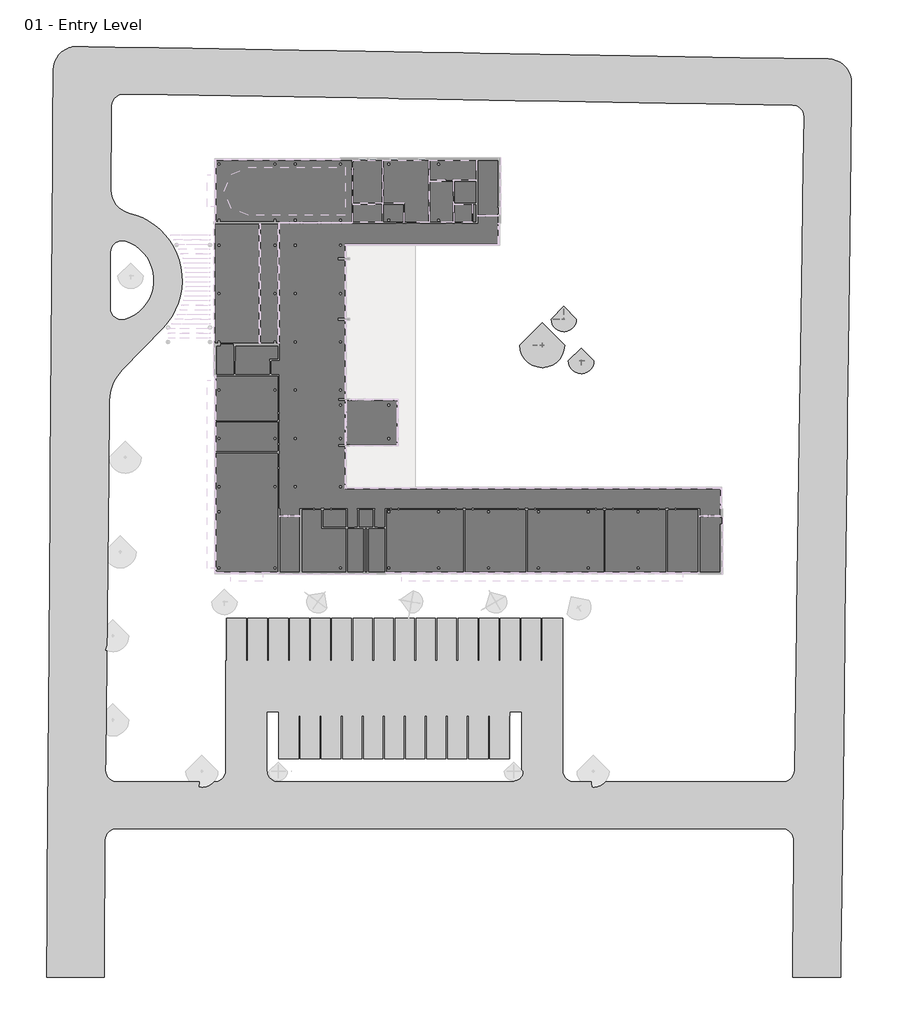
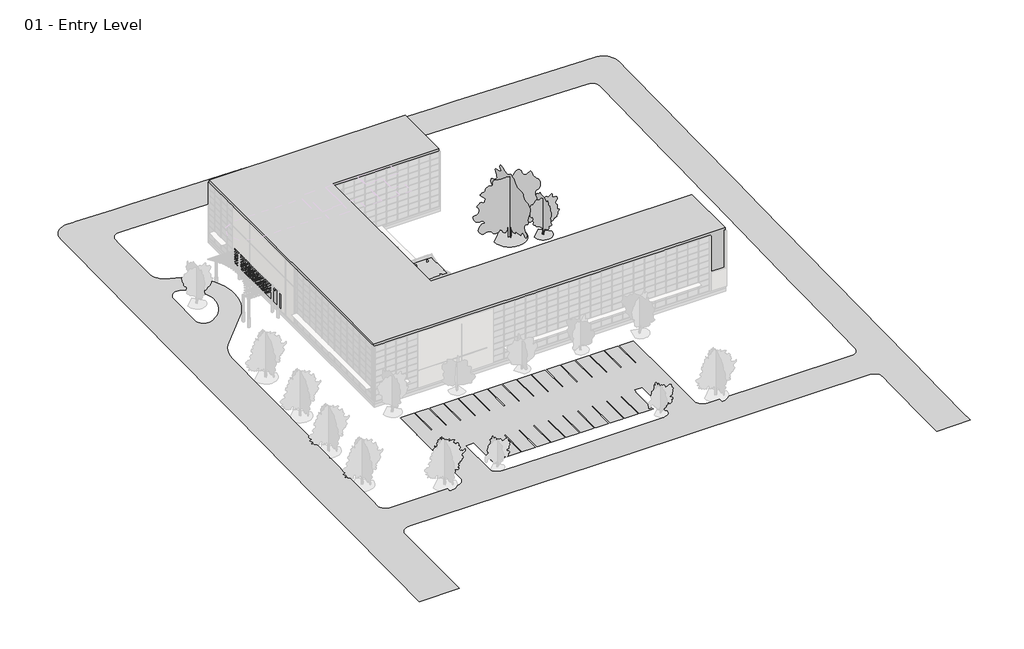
# One storey, part 35 of 35: 3 geographic elements, 3 proxies.
"""IFC4 building model written with IfcOpenShell, lengths in millimetres."""

from ifc_helpers import new_model, si_unit, origin, origin_with_axes, place, context, project, spatial, polyline, outline, extrude, triangles, transform, mapped, element, save
from components import rpc_tree_deciduous_honey_locust_25_cc46a1f1, rpc_tree_deciduous_red_ash_25_14781bec, rpc_tree_deciduous_scarlet_oak_42_9b182cbb

model = new_model("IFC4")

# Units and contexts
model_context = context("Model", 3, world=origin())
ifc_project = project(units=[si_unit("LENGTHUNIT", "METRE", prefix="MILLI")], contexts=[model_context])

# Site, building, storey
site = spatial("IfcSite", under=ifc_project)
building = spatial("IfcBuilding", under=site)
storey = spatial("IfcBuildingStorey", under=building, Name="01 - Entry Level", Elevation=0.0)

# Proxies
placement = place(None, origin())
element("IfcBuildingElementProxy", 1, Name="Building Element Proxy", at=placement, inside=storey, context=model_context, shape_type="Tessellation", body=[
    triangles([(-20951.5374207, 65536.799707, 0.0), (-20952.3466736, 65428.1737793, 0.0), (-20960.1206177, 64383.2887207, 0.0), (-20996.1184204, 59545.0584595, 0.0), (-21005.5713318, 58274.2244019, 0.0), (-21027.088623, 55382.3730103, 0.0), (-21041.8109802, 53403.372876, 0.0), (-21336.539502, 13790.1222198, -63.9085037), (-21377.7997742, 8244.3444489, -68.5632705), (-21573.3855103, -18043.7230499, -82.5216981), (-21616.1294128, -23788.6921509, -81.5271458), (-21677.211731, -31998.81427, -82.899046), (-21737.5499084, -40108.6587891, -84.2541959), (-21771.6850342, -44696.5182861, -83.7693963), (-21831.9674011, -52798.8609375, -85.1033628), (-14322.3478729, -52798.8609375, -96.0960239), (-14281.4852509, -45101.0377808, -94.804642), (-14253.9253052, -39909.098877, -95.3369042), (-14227.4373871, -34919.2197327, -94.4872922), (-14187.690976, -34581.4310486, -94.4861658), (-14074.0176819, -34260.86922, -94.5979413), (-13892.0822754, -33973.5007141, -94.8170413), (-13650.9435059, -33733.6386108, -95.1325653), (-13362.6145935, -33553.2310181, -95.5287893), (-13041.4539642, -33441.2611084, -95.9859834), (-12703.458316, -33403.3099365, -96.4813747), (28841.9744019, -33403.3099365, -158.2045331), (74050.6428223, -33403.3099365, -225.3700736), (74391.5894531, -33441.9378113, -225.883487), (74715.253418, -33555.8634155, -226.3846374), (75005.2310669, -33739.3126831, -226.8481447), (75246.8116699, -33982.9838562, -227.2504639), (75427.7587646, -34274.5265259, -227.5712292), (75538.8915161, -34599.160199, -227.7941807), (75549.6303955, -34701.839978, -227.8284265), (75574.5823608, -34940.4277405, -227.9080001), (75552.4255737, -37514.2985413, -228.3336282), (75445.3948975, -49946.8768799, -226.9983899), (75420.8429077, -52798.8609375, -227.4630599), (81696.576123, -52798.8609375, -236.649545), (81726.7510254, -50286.1119873, -236.2526579), (81882.1275879, -37345.508844, -237.7074383), (81911.7443848, -34878.7152283, -237.3119864), (81941.7146484, -32382.6675842, -236.9118291), (82142.1861328, -15686.4832123, -239.9176413), (82234.2456299, -8018.5681137, -235.899718), (82253.6490967, -6402.5353592, -234.5542514), (82535.0365723, 17032.6975525, -196.8883819), (82579.7687256, 20757.7608765, -197.739529), (82630.5470215, 24987.3794495, -197.9025096), (82680.264917, 29127.9383423, -188.1372808), (82736.3173096, 33796.23479, -187.5318672), (82793.7463623, 38578.9986694, -187.7452808), (82855.6495605, 43735.1304565, -175.5348706), (82922.4361816, 49297.5351196, -171.8794796), (83062.6973877, 60978.7569946, -168.736957), (83097.2441162, 63856.4046021, -167.7387803), (83057.5442139, 64384.6839844, -167.4271896), (82926.9754395, 64898.1084595, -166.8679396), (82709.4724365, 65381.1719971, -166.077926), (82411.6208496, 65819.2754883, -165.0810029), (82042.396875, 66199.1871826, -163.90731), (81612.9812256, 66509.4333618, -162.592274), (81136.3219482, 66740.637854, -161.1756453), (80626.8367676, 66885.8150391, -159.7002266), (80099.9014893, 66940.5791382, -158.2105647), (68550.9785156, 67131.7163086, -125.9449015), (54223.2577148, 67368.8413696, -85.4636152), (50301.6133667, 67433.7443848, -75.3097337), (34613.6197815, 67693.3796997, -53.6210048), (32524.7007751, 67727.9496826, -47.7922091), (30878.3966125, 67755.1991821, -43.3861009), (16017.8153137, 68001.1423096, -27.5484457), (15150.1694366, 68015.4995728, -25.3253051), (14493.3560394, 68026.3686768, -23.5577077), (-2856.9395691, 68313.5185913, 0.0), (-6105.6604568, 68367.2827515, 0.0), (-7229.526741, 68385.8862671, 0.0), (-9490.7486023, 68423.3072388, 0.0), (-16418.6885193, 68537.9653564, 0.0), (-16858.905835, 68545.2486328, 0.0), (-17853.1846802, 68561.7080933, 0.0), (-18386.2044708, 68523.6778564, 0.0), (-18904.3914459, 68393.1462891, 0.0), (-19391.8163452, 68174.1177979, 0.0), (-19833.5010132, 67873.3361572, 0.0), (-20215.8637207, 67500.0333618, 0.0), (-20527.1586731, 67065.6924316, 0.0), (-20757.8120361, 66583.6613892, 0.0), (-20900.7358704, 66068.7532837, 0.0), (75444.1484619, 60920.7977417, -147.2674009), (75782.2208496, 60877.0748291, -148.2341296), (76102.1129517, 60759.2959717, -149.1720175), (76387.8257446, 60573.3631348, -150.034156), (76625.0624268, 60328.5734253, -150.7773974), (76801.9539551, 60037.1772583, -151.3645527), (76909.6543579, 59713.7504883, -151.7662632), (76942.7639648, 59374.4735229, -151.9624086), (76850.2951904, 53121.041272, -153.5956937), (76776.9415283, 48160.2975586, -156.8201517), (76689.807312, 42267.4991089, -170.7530767), (76625.6019287, 37925.6966858, -170.525656), (76562.9638916, 33689.4459595, -171.0435568), (76492.8890991, 28950.6421875, -182.206193), (76435.4181885, 25063.9980286, -182.0287329), (76384.816626, 21641.9650452, -181.2211877), (75988.185022, -5181.2186279, -224.2330609), (75960.7913452, -7033.8881012, -225.7679054), (75830.7248657, -15829.9302704, -230.3395559), (75683.2129395, -25805.8411194, -228.5016048), (75640.7550659, -26141.2322754, -228.3830438), (75525.3946655, -26459.0128784, -228.1569674), (75342.8197632, -26743.5396973, -227.8345126), (75102.0112061, -26980.8182373, -227.4315393), (74814.8101318, -27159.1678162, -226.9678867), (74495.3645142, -27269.8122253, -226.466373), (74159.3803711, -27307.3099365, -225.9516696), (46965.1193481, -27307.3099365, -184.7824166), (46625.9958618, -27269.0983154, -184.2751983), (46303.8759888, -27156.3865906, -183.8058047), (46014.9168823, -26974.820929, -183.3977264), (45773.6060303, -26733.5077515, -183.0714745), (45592.0403687, -26444.548645, -182.8433634), (45479.3263184, -26122.4310974, -182.7248569), (45441.1193481, -25783.3099365, -182.7219137), (45441.1193481, -16520.622995, -184.2210955), (45441.1193481, -5971.3087738, -178.4995515), (1550.3207771, -5971.3087738, -111.3510339), (1550.3207771, -17518.1690826, -117.6136059), (1550.3207771, -25711.2096863, -116.2875422), (1550.3207771, -25783.3099365, -116.3003866), (1512.1109001, -26122.4310974, -116.3040292), (1399.3972858, -26444.548645, -116.1939614), (1217.8319149, -26733.5077515, -115.9756971), (976.5191734, -26974.820929, -115.6601732), (687.5595583, -27156.3865906, -115.2632134), (365.4426647, -27269.0983154, -114.8047385), (26.3207476, -27307.3099365, -114.3077121), (-12624.7305634, -27307.3099365, -95.5123205), (-12966.0481018, -27268.5960205, -94.9983348), (-13290.0248383, -27154.4262451, -94.4966757), (-13580.2013123, -26970.5956055, -94.0328141), (-13821.8377258, -26726.4477173, -93.6303223), (-14002.6557587, -26434.3841492, -93.309657), (-14113.4687622, -26109.2435303, -93.087096), (-14148.649173, -25767.5457825, -92.973958), (-14134.602356, -24409.5612305, -92.7528959), (-14066.9878784, -17873.1183472, -93.9131993), (-13809.1117584, 7056.365799, -80.7869202), (-13754.7441467, 12312.215918, -76.3981075), (-13651.822522, 22261.9504578, -60.3845455), (-13595.1364471, 23030.6640015, -59.2122061), (-13441.8992889, 23786.0806824, -58.1899483), (-13194.5608978, 24516.1198425, -57.334123), (-12857.0756836, 25209.1101013, -56.6584103), (-12434.8386658, 25853.9753906, -56.1736152), (-11934.6005951, 26440.4023865, -55.8874908), (-6619.5267654, 31927.0837646, -54.0552988), (-6008.4547623, 32644.9562256, -53.7033172), (-5475.9047104, 33422.8645569, -53.1493812), (-5027.7297409, 34252.2534668, -52.3995814), (-4668.856588, 35124.0118835, -51.4621613), (-4403.2312317, 36028.5520203, -50.3474219), (-4233.7729706, 36955.9302979, -49.0676172), (-4162.3444817, 37895.9566406, -47.6368225), (-4189.7311821, 38838.2944702, -46.0707571), (-4315.6319275, 39772.5816284, -44.3866439), (-4538.6630814, 40688.5582764, -42.6029909), (-4856.3724678, 41576.1459595, -40.7394056), (-5265.2675674, 42425.5871338, -38.8163761), (-5760.8541779, 43227.5474854, -36.8550428), (-6337.6835037, 43973.2135986, -34.8769614), (-6989.4152344, 44654.3859741, -32.9038805), (-7708.8846909, 45263.5766968, -30.9574899), (-8488.1836349, 45794.088501, -29.0591819), (-9318.7445663, 46240.0938354, -27.2298264), (-10191.4383911, 46596.6813721, -25.4895347), (-11096.6703461, 46859.9397217, -23.8574328), (-11584.3254639, 47018.7300293, -22.9506613), (-12038.4535583, 47257.0317627, -21.9594381), (-12446.1984375, 47568.1057983, -20.9118322), (-12796.0166199, 47943.1387207, -19.8375019), (-13078.0028961, 48371.5125732, -18.7668584), (-13284.1751953, 48841.1025146, -17.7302189), (-13408.6955017, 49338.6116821, -16.7569282), (-13448.0384491, 49849.9572144, -15.8745443), (-13374.830127, 59689.6868408, 0.0), (-13366.1783295, 60852.5181885, 0.0), (-13324.9901459, 61193.2787842, 0.0), (-13208.5879486, 61516.175354, 0.0), (-13022.8771912, 61804.8321533, 0.0), (-12777.277066, 62044.6128662, 0.0), (-12484.2472778, 62223.3461426, 0.0), (-12158.6497101, 62331.9674194, 0.0), (-11817.0019592, 62364.974707, 0.0), (-10145.7039734, 62337.3112793, 0.0), (22812.1657104, 61791.8608521, -44.749199), (24059.8197876, 61771.2109497, -48.1068519), (25707.9610474, 61743.9335449, -52.3298318), (39240.2699341, 61519.9751221, -66.7518848), (41773.1990479, 61478.0520996, -73.5309178), (44987.114502, 61424.8646484, -82.4988343), (58871.4716675, 61195.0786743, -101.6940289), (64167.046106, 61107.4328613, -115.405265), (-13555.6202545, 34475.8979553, -40.6867425), (-13501.5572754, 41742.2660522, -28.9638321), (-13457.1878906, 42096.16073, -28.4484361), (-13331.7792664, 42430.0473267, -28.0733682), (-13132.2007507, 42725.6478882, -27.8591689), (-12869.3842346, 42966.7634033, -27.8175699), (-12557.7218628, 43140.1946777, -27.9508511), (-12214.2870117, 43236.4353149, -28.2517094), (-11857.8878357, 43250.2158691, -28.7036713), (-11508.0463989, 43180.7875488, -29.281979), (-10848.8610535, 42917.6640747, -30.5863939), (-10230.4453125, 42569.3551025, -31.9748288), (-9663.7490891, 42142.0230469, -33.4226987), (-9158.806073, 41643.2348877, -34.9043716), (-8724.5569977, 41081.8179932, -36.3936112), (-8368.6897659, 40467.7205933, -37.8640474), (-8097.5057373, 39811.811792, -39.2896485), (-7915.8069443, 39125.704834, -40.6451708), (-7826.810051, 38421.5478149, -41.9066172), (-7832.0905426, 37711.8097412, -43.0516463), (-7931.5548203, 37009.0549622, -44.0599878), (-8123.4431076, 36325.7269043, -44.9137919), (-8404.3561935, 35673.9248291, -45.5979344), (-8769.3211258, 35065.1898926, -46.1003065), (-9211.8760895, 34510.2981812, -46.4120154), (-9724.184935, 34019.0793274, -46.5275379), (-10297.176123, 33600.225824, -46.4448259), (-10920.7066681, 33261.1558228, -46.1653507), (-11583.7336395, 33007.871283, -45.6940586), (-11934.5703644, 32943.6542725, -45.3313627), (-12290.7242065, 32962.7391541, -44.826379), (-12632.6893799, 33064.07948, -44.2067584), (-12941.7356323, 33242.1267517, -43.5064378), (-13200.9360901, 33487.1257507, -42.7637824), (-13396.095108, 33785.6610168, -42.0194555), (-13516.5214783, 34121.3800598, -41.3142342), (6884.3204865, -18163.3087738, -125.584304), (8408.3204865, -18163.3087738, -127.891476), (8408.3204865, -24259.3099365, -126.9048265), (38583.1170227, -24259.3099365, -172.586286), (38583.1170227, -18163.3087738, -173.5729445), (40107.1193481, -18163.3087738, -175.8801075), (40107.1193481, -25783.3099365, -174.6467889), (40068.9077271, -26122.4310974, -174.5340596), (39956.1936768, -26444.548645, -174.3112897), (39774.6280151, -26733.5077515, -173.9896524), (39533.3171631, -26974.820929, -173.5852621), (39244.3580566, -27156.3865906, -173.1184301), (38922.2381836, -27269.0983154, -172.6125381), (38583.1170227, -27307.3099365, -172.0929477), (20783.3895447, -27307.3099365, -145.146046), (8408.3204865, -27307.3099365, -126.7606675), (8069.1987442, -27269.0983154, -126.2500337), (7747.081778, -27156.3865906, -125.7513995), (7458.1220901, -26974.820929, -125.2897453), (7216.809494, -26733.5077515, -124.8882436), (7035.2444138, -26444.548645, -124.567015), (6935.0011139, -26158.0707825, -124.3670545), (6922.5303635, -26122.4310974, -124.3539376), (6884.3204865, -25783.3099365, -124.3509853)], [[14, 15, 17], [16, 17, 15], [14, 17, 18], [12, 13, 19], [18, 19, 13], [13, 14, 18], [12, 19, 20], [22, 12, 21], [142, 12, 23], [23, 12, 22], [12, 142, 143], [24, 141, 142], [141, 24, 25], [23, 24, 142], [21, 12, 20], [12, 143, 144], [11, 146, 147], [146, 11, 145], [11, 144, 145], [11, 147, 148], [149, 9, 10], [148, 149, 10], [9, 150, 8], [10, 11, 148], [151, 8, 150], [151, 152, 8], [152, 153, 8], [8, 240, 205], [240, 153, 239], [240, 8, 153], [154, 239, 153], [150, 9, 149], [11, 12, 144], [8, 205, 7], [140, 25, 26], [26, 139, 140], [237, 238, 156], [238, 239, 155], [237, 157, 236], [238, 155, 156], [140, 141, 25], [157, 235, 236], [157, 158, 232], [231, 232, 158], [234, 235, 157], [232, 233, 157], [234, 157, 233], [158, 159, 229], [157, 237, 156], [230, 158, 229], [158, 230, 231], [227, 228, 160], [225, 226, 163], [227, 161, 226], [159, 228, 229], [161, 162, 226], [162, 163, 226], [163, 164, 225], [166, 222, 223], [224, 165, 223], [164, 165, 224], [222, 166, 167], [225, 164, 224], [222, 167, 168], [161, 227, 160], [159, 160, 228], [26, 138, 139], [155, 239, 154], [7, 206, 207], [185, 7, 184], [7, 207, 208], [7, 185, 186], [7, 186, 6], [187, 5, 6], [187, 4, 5], [187, 6, 186], [206, 7, 205], [183, 208, 209], [210, 182, 209], [182, 210, 181], [183, 209, 182], [187, 188, 4], [183, 184, 208], [184, 7, 208], [4, 188, 189], [1, 82, 90], [90, 82, 89], [82, 1, 2], [83, 87, 88], [84, 86, 87], [82, 88, 89], [2, 3, 81], [3, 190, 191], [190, 3, 189], [82, 83, 88], [191, 80, 3], [85, 86, 84], [87, 83, 84], [2, 81, 82], [80, 81, 3], [191, 192, 80], [3, 4, 189], [175, 215, 216], [173, 217, 218], [174, 216, 217], [211, 212, 180], [178, 213, 214], [179, 212, 213], [214, 215, 177], [170, 219, 220], [220, 221, 169], [168, 221, 222], [168, 169, 221], [218, 171, 172], [171, 219, 170], [220, 169, 170], [171, 218, 219], [218, 172, 173], [180, 181, 211], [179, 213, 178], [180, 212, 179], [194, 80, 193], [194, 195, 79], [194, 79, 80], [215, 176, 177], [176, 215, 175], [214, 177, 178], [78, 79, 196], [77, 78, 196], [196, 79, 195], [196, 76, 77], [216, 174, 175], [173, 174, 217], [193, 80, 192], [181, 210, 211], [26, 257, 137], [136, 257, 258], [257, 136, 137], [26, 137, 138], [134, 135, 259], [258, 259, 135], [135, 136, 258], [260, 134, 259], [255, 256, 27], [27, 254, 255], [254, 27, 253], [257, 26, 256], [120, 252, 253], [250, 251, 122], [252, 121, 251], [253, 27, 119], [256, 26, 27], [132, 133, 262], [262, 263, 132], [133, 261, 262], [132, 263, 131], [130, 131, 264], [264, 241, 130], [131, 263, 264], [260, 261, 133], [243, 244, 245], [248, 249, 124], [246, 247, 125], [245, 246, 127], [248, 125, 247], [133, 134, 260], [243, 245, 242], [250, 123, 249], [129, 130, 241], [39, 41, 38], [44, 32, 33], [28, 29, 117], [115, 30, 31], [116, 29, 30], [31, 32, 44], [118, 27, 28], [41, 42, 38], [41, 39, 40], [42, 37, 38], [37, 42, 36], [34, 35, 43], [36, 43, 35], [43, 36, 42], [33, 34, 44], [43, 44, 34], [121, 252, 120], [27, 118, 119], [253, 119, 120], [124, 125, 248], [122, 123, 250], [124, 249, 123], [121, 122, 251], [117, 29, 116], [31, 114, 115], [115, 116, 30], [118, 28, 117], [113, 114, 44], [111, 112, 44], [110, 111, 44], [113, 44, 112], [44, 45, 110], [44, 114, 31], [246, 125, 126], [129, 241, 128], [128, 241, 242], [128, 245, 127], [126, 127, 246], [242, 245, 128], [165, 166, 223], [47, 107, 108], [48, 106, 107], [108, 109, 46], [67, 91, 66], [66, 92, 93], [66, 91, 92], [204, 91, 67], [197, 198, 72], [199, 72, 198], [72, 199, 71], [197, 72, 73], [75, 76, 196], [73, 74, 197], [75, 197, 74], [197, 75, 196], [70, 200, 201], [69, 201, 202], [69, 202, 203], [70, 71, 200], [68, 69, 203], [67, 68, 203], [70, 201, 69], [203, 204, 67], [200, 71, 199], [93, 94, 66], [50, 104, 105], [47, 108, 46], [109, 45, 46], [103, 104, 51], [102, 103, 52], [101, 102, 53], [101, 54, 100], [107, 47, 48], [49, 106, 48], [50, 105, 106], [50, 106, 49], [51, 52, 103], [53, 54, 101], [52, 53, 102], [50, 51, 104], [100, 54, 55], [56, 96, 97], [97, 98, 56], [56, 95, 96], [57, 94, 95], [57, 65, 66], [58, 64, 65], [66, 94, 57], [98, 99, 56], [64, 58, 59], [95, 56, 57], [57, 58, 65], [62, 63, 60], [62, 60, 61], [60, 63, 59], [64, 59, 63], [56, 99, 55], [99, 100, 55], [110, 45, 109]], closed=False),
])
element("IfcBuildingElementProxy", 2, Name="Main Building : Main Building", ObjectType="Main Building : Main Building", at=placement, inside=storey, context=model_context, shape_type="SweptSolid", body=[
    extrude(outline(polyline([(140.6207476, 53.9), (140.6207476, 53724.1), (37046.8207476, 53724.1), (37046.8207476, 42852.9), (17082.4207476, 42852.9), (17082.4207476, 10899.7), (66207.5000011, 10899.7), (66207.5000011, 53.9), (140.6207476, 53.9)])), origin_with_axes(), (0.0, 0.0, 1.0), 11430.0),
])
element("IfcBuildingElementProxy", 3, Name="Pavillion : Pavillion", ObjectType="Pavillion : Pavillion", at=placement, inside=storey, context=model_context, shape_type="SweptSolid", body=[
    extrude(outline(polyline([(23947.0115197, 16551.2), (17082.4207476, 16551.2), (17082.4207476, 22545.6), (23947.0115197, 22545.6), (23947.0115197, 16551.2)])), origin_with_axes(), (0.0, 0.0, 1.0), 6705.6),
])

# Geographic elements
rpc_tree_deciduous_honey_locust_25_shape = rpc_tree_deciduous_honey_locust_25_cc46a1f1(model_context)
element("IfcGeographicElement", 4, ObjectType="RPC Tree - Deciduous : Honey Locust - 25'", at=placement, inside=storey, context=model_context, shape_type="MappedRepresentation", body=[
    mapped(rpc_tree_deciduous_honey_locust_25_shape, transform((47861.0628976, 27572.3926331, -133.6324115), x_axis=(1.0, 0.0, 0.0), y_axis=(0.0, 1.0, 0.0), z_axis=(0.0, 0.0, 1.0))),
])
rpc_tree_deciduous_red_ash_25_shape = rpc_tree_deciduous_red_ash_25_14781bec(model_context)
element("IfcGeographicElement", 5, ObjectType="RPC Tree - Deciduous : Red Ash - 25'", at=placement, inside=storey, context=model_context, shape_type="MappedRepresentation", body=[
    mapped(rpc_tree_deciduous_red_ash_25_shape, transform((45602.0297907, 33031.7226414, -121.7641944), x_axis=(1.0, 0.0, 0.0), y_axis=(0.0, 1.0, 0.0), z_axis=(0.0, 0.0, 1.0))),
])
rpc_tree_deciduous_scarlet_oak_42_shape = rpc_tree_deciduous_scarlet_oak_42_9b182cbb(model_context)
element("IfcGeographicElement", 6, ObjectType="RPC Tree - Deciduous : Scarlet Oak - 42'", at=placement, inside=storey, context=model_context, shape_type="MappedRepresentation", body=[
    mapped(rpc_tree_deciduous_scarlet_oak_42_shape, transform((42778.2384071, 29643.1729811, -123.5063336), x_axis=(1.0, 0.0, 0.0), y_axis=(0.0, 1.0, 0.0), z_axis=(0.0, 0.0, 1.0))),
])

save(model, "model.ifc")
